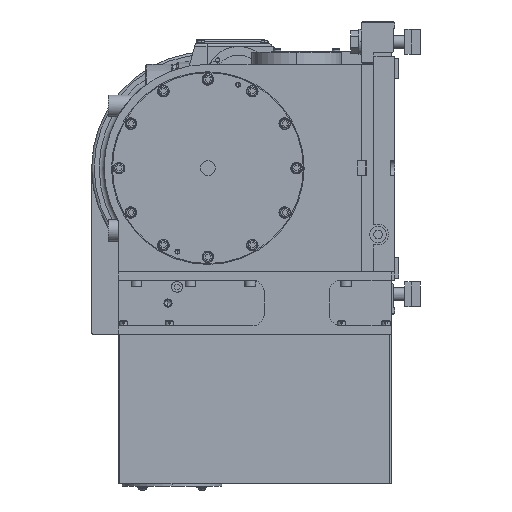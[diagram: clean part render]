
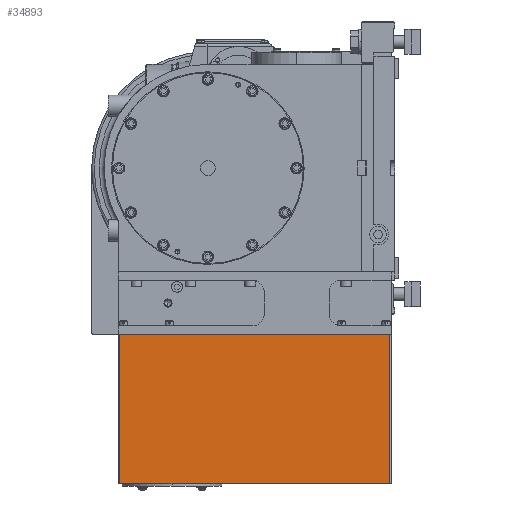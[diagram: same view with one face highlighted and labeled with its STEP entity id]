
A CAD part, left-side view. The second image highlights one B-rep face of the part: STEP entity #34893.
In plain terms, the highlighted planar face has unit normal (-1, 0, 0).
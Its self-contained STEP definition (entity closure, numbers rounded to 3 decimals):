
#516 = VECTOR ( 'NONE', #120545, 1000. ) ;
#1791 = CARTESIAN_POINT ( 'NONE',  ( -155., 327., 0. ) ) ;
#5852 = DIRECTION ( 'NONE',  ( 0., -1., 0. ) ) ;
#11922 = VECTOR ( 'NONE', #151539, 1000. ) ;
#12931 = ORIENTED_EDGE ( 'NONE', *, *, #91632, .T. ) ;
#17586 = VERTEX_POINT ( 'NONE', #1791 ) ;
#18631 = ORIENTED_EDGE ( 'NONE', *, *, #122001, .F. ) ;
#23634 = VERTEX_POINT ( 'NONE', #110264 ) ;
#26986 = CARTESIAN_POINT ( 'NONE',  ( -155., 2., -180. ) ) ;
#29343 = PLANE ( 'NONE',  #50156 ) ;
#30479 = CARTESIAN_POINT ( 'NONE',  ( -155., 0., 0. ) ) ;
#32676 = ORIENTED_EDGE ( 'NONE', *, *, #70861, .T. ) ;
#34354 = FACE_OUTER_BOUND ( 'NONE', #138589, .T. ) ;
#34893 = ADVANCED_FACE ( 'NONE', ( #34354 ), #29343, .T. ) ;
#36026 = LINE ( 'NONE', #49626, #516 ) ;
#42485 = DIRECTION ( 'NONE',  ( 0., -1., 0. ) ) ;
#49626 = CARTESIAN_POINT ( 'NONE',  ( -155., 0., -180. ) ) ;
#50156 = AXIS2_PLACEMENT_3D ( 'NONE', #148698, #77205, #5852 ) ;
#51405 = VECTOR ( 'NONE', #111141, 1000. ) ;
#70861 = EDGE_CURVE ( 'NONE', #120444, #94863, #36026, .T. ) ;
#75634 = CARTESIAN_POINT ( 'NONE',  ( -155., 2., -180. ) ) ;
#75727 = VECTOR ( 'NONE', #42485, 1000. ) ;
#77205 = DIRECTION ( 'NONE',  ( -1., 0., 0. ) ) ;
#79365 = LINE ( 'NONE', #75634, #51405 ) ;
#79495 = LINE ( 'NONE', #30479, #75727 ) ;
#82899 = ORIENTED_EDGE ( 'NONE', *, *, #152921, .T. ) ;
#91632 = EDGE_CURVE ( 'NONE', #94863, #23634, #79365, .T. ) ;
#94863 = VERTEX_POINT ( 'NONE', #26986 ) ;
#95342 = CARTESIAN_POINT ( 'NONE',  ( -155., 327., -180. ) ) ;
#107005 = LINE ( 'NONE', #139562, #11922 ) ;
#110264 = CARTESIAN_POINT ( 'NONE',  ( -155., 2., 0. ) ) ;
#111141 = DIRECTION ( 'NONE',  ( 0., 0., 1. ) ) ;
#120444 = VERTEX_POINT ( 'NONE', #95342 ) ;
#120545 = DIRECTION ( 'NONE',  ( 0., -1., 0. ) ) ;
#122001 = EDGE_CURVE ( 'NONE', #17586, #23634, #79495, .T. ) ;
#138589 = EDGE_LOOP ( 'NONE', ( #32676, #12931, #18631, #82899 ) ) ;
#139562 = CARTESIAN_POINT ( 'NONE',  ( -155., 327., -180. ) ) ;
#148698 = CARTESIAN_POINT ( 'NONE',  ( -155., 0., -180. ) ) ;
#151539 = DIRECTION ( 'NONE',  ( 0., 0., -1. ) ) ;
#152921 = EDGE_CURVE ( 'NONE', #17586, #120444, #107005, .T. ) ;
